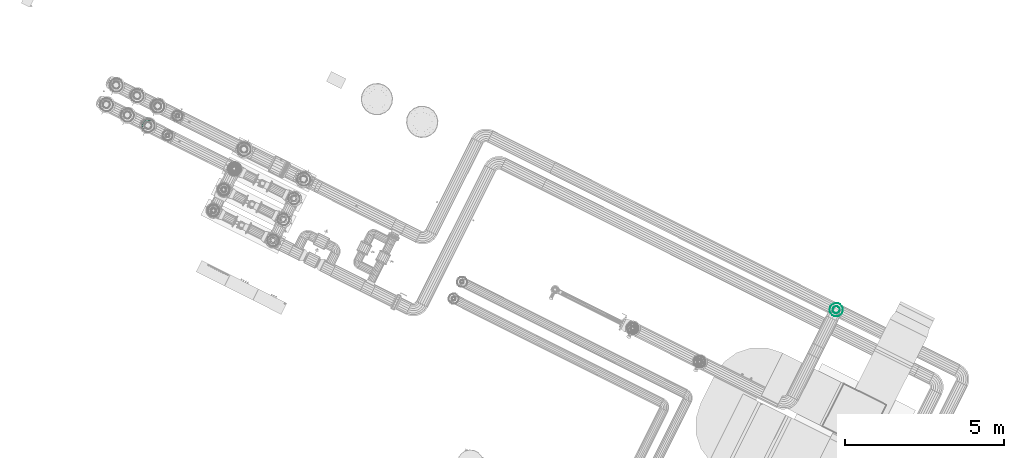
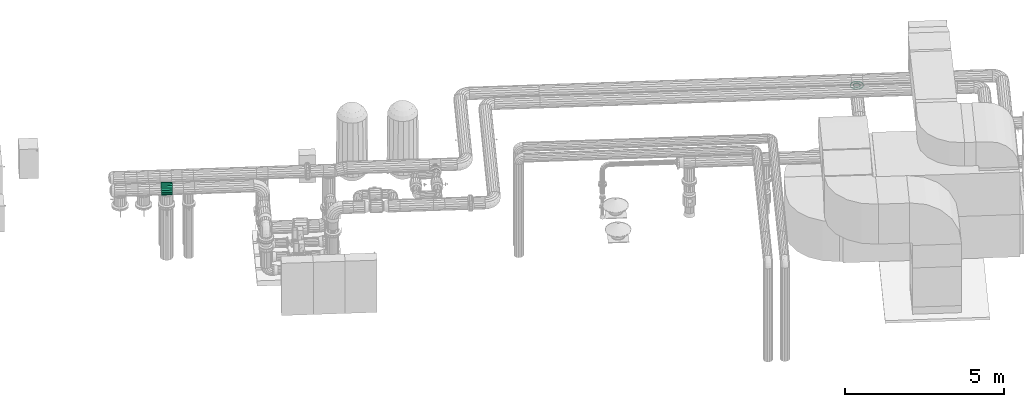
# One storey, part 84 of 152: 1 flow fitting, 1 flow segment.
"""IFC2X3 building model written with IfcOpenShell, lengths in metres."""

from ifc_helpers import new_model, si_unit, derived_unit, direction, frame, origin, place, context, subcontext, project, spatial, face_set, surface_model, source, transform, mapped, material, type_object, type_shapes, element, save


model = new_model("IFC2X3")

# Units and contexts
model_context = context("Model", 3, precision=5.2338327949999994e-05, world=origin(), true_north=direction((0.0, 1.0)))
body_context = subcontext(model_context, "Body", "Model", "MODEL_VIEW")
ifc_project = project(units=[si_unit("LENGTHUNIT", "METRE"), si_unit("AREAUNIT", "SQUARE_METRE"), si_unit("VOLUMEUNIT", "CUBIC_METRE"), si_unit("MASSUNIT", "GRAM", prefix="KILO"), si_unit("PLANEANGLEUNIT", "RADIAN"), derived_unit("THERMALTRANSMITTANCEUNIT", [(si_unit("MASSUNIT", "GRAM", prefix="KILO"), 1), (si_unit("THERMODYNAMICTEMPERATUREUNIT", "KELVIN"), -1), (si_unit("TIMEUNIT", "SECOND"), -3)])], contexts=[model_context])

# Site, building, storey
site_placement = place(None, frame((0.0, 0.0, 0.0), z_axis=(0.0, 0.0, 1.0), x_axis=(0.8939966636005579, -0.4480736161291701, 0.0)))
site = spatial("IfcSite", under=ifc_project, at=site_placement, Name="Default", CompositionType="ELEMENT")
building_placement = place(site_placement, origin())
building = spatial("IfcBuilding", under=site, at=building_placement, CompositionType="ELEMENT")
storey_placement = place(building_placement, frame((0.0, 0.0, 2.7499999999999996)))
storey = spatial("IfcBuildingStorey", under=building, at=storey_placement, Name="1. Obergeschoss", CompositionType="ELEMENT", Elevation=2.7499999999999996)

# Flow fitting
ifc_material_1 = material(Name="IfcSurfaceStyle #9317")
distribution_element_type_1 = type_object("IfcDistributionElementType", Name="Abzweigstück 225748:Abzweigstück 225748", material=ifc_material_1)
shared_shape_1 = source(origin(), body_context, "Body", "SurfaceModel", [
    surface_model("IfcFaceBasedSurfaceModel", [(6.765814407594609, 7.217658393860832, 5.553028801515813), (6.765814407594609, 7.224265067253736, 5.59049710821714), (6.4098144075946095, 7.224265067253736, 5.59049710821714), (6.4098144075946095, 7.217658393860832, 5.553028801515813), (6.765814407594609, 7.243288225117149, 5.623446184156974), (6.4098144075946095, 7.243288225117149, 5.623446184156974), (6.765814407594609, 7.272433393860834, 5.6479018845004), (6.4098144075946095, 7.272433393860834, 5.6479018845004), (6.765814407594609, 7.308185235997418, 5.660914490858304), (6.4098144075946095, 7.308185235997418, 5.660914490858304), (6.765814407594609, 7.346231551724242, 5.660914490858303), (6.4098144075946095, 7.346231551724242, 5.660914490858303), (6.765814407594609, 7.381983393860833, 5.647901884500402), (6.4098144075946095, 7.381983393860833, 5.647901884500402), (6.765814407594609, 7.411128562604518, 5.623446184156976), (6.4098144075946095, 7.411128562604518, 5.623446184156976), (6.765814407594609, 7.430151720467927, 5.590497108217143), (6.4098144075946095, 7.430151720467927, 5.590497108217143), (6.765814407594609, 7.436758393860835, 5.553028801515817), (6.4098144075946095, 7.436758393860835, 5.553028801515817), (6.765814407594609, 7.4301517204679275, 5.51556049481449), (6.4098144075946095, 7.4301517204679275, 5.51556049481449), (6.765814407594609, 7.411128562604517, 5.482611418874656), (6.4098144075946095, 7.411128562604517, 5.482611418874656), (6.765814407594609, 7.381983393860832, 5.458155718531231), (6.4098144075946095, 7.381983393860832, 5.458155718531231), (6.765814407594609, 7.3462315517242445, 5.445143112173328), (6.4098144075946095, 7.3462315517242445, 5.445143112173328), (6.765814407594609, 7.308185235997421, 5.445143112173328), (6.4098144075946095, 7.308185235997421, 5.445143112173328), (6.765814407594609, 7.272433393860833, 5.45815571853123), (6.4098144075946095, 7.272433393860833, 5.45815571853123), (6.765814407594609, 7.243288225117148, 5.4826114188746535), (6.4098144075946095, 7.243288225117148, 5.4826114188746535), (6.765814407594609, 7.224265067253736, 5.515560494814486), (6.4098144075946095, 7.224265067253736, 5.515560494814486), (6.765814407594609, 7.117658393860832, 5.553028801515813), (6.765814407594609, 7.130295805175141, 5.624699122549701), (6.4098144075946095, 7.130295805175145, 5.624699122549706), (6.4098144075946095, 7.117658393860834, 5.553028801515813), (6.765814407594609, 7.166683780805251, 5.687724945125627), (6.4098144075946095, 7.166683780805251, 5.687724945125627), (6.765814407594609, 7.222433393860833, 5.734504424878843), (6.4098144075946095, 7.222433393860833, 5.734504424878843), (6.765814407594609, 7.290820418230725, 5.759395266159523), (6.4098144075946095, 7.290820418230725, 5.759395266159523), (6.765814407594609, 7.363596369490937, 5.759395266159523), (6.4098144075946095, 7.363596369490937, 5.759395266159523), (6.765814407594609, 7.43198339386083, 5.734504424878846), (6.4098144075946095, 7.43198339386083, 5.734504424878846), (6.765814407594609, 7.487733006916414, 5.687724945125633), (6.4098144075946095, 7.487733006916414, 5.687724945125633), (6.765814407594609, 7.52412098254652, 5.6246991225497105), (6.4098144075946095, 7.52412098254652, 5.6246991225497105), (6.765814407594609, 7.536758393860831, 5.553028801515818), (6.4098144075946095, 7.536758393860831, 5.553028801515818), (6.765814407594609, 7.5241209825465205, 5.481358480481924), (6.4098144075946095, 7.5241209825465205, 5.481358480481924), (6.765814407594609, 7.487733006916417, 5.418332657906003), (6.4098144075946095, 7.487733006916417, 5.418332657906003), (6.765814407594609, 7.431983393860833, 5.371553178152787), (6.4098144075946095, 7.431983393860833, 5.371553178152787), (6.765814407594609, 7.36359636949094, 5.3466623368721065), (6.4098144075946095, 7.36359636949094, 5.3466623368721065), (6.765814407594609, 7.29082041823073, 5.3466623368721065), (6.4098144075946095, 7.29082041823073, 5.3466623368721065), (6.765814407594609, 7.222433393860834, 5.3715531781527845), (6.4098144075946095, 7.222433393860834, 5.3715531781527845), (6.765814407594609, 7.166683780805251, 5.418332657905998), (6.4098144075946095, 7.166683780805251, 5.418332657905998), (6.765814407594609, 7.130295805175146, 5.481358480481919), (6.4098144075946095, 7.130295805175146, 5.481358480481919), (6.478264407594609, 7.327208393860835, 5.443478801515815), (6.484871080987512, 7.3646767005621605, 5.45008547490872), (6.484871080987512, 7.3646767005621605, 5.375028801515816), (6.478264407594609, 7.327208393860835, 5.375028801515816), (6.5038942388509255, 7.397625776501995, 5.469108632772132), (6.5038942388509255, 7.397625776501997, 5.375028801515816), (6.533039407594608, 7.422081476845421, 5.498253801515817), (6.533039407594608, 7.422081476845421, 5.375028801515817), (6.568791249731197, 7.43509408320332, 5.534005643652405), (6.568791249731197, 7.435094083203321, 5.375028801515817), (6.6068375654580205, 7.435094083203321, 5.534005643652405), (6.6068375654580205, 7.435094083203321, 5.375028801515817), (6.64258940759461, 7.422081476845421, 5.498253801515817), (6.64258940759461, 7.422081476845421, 5.375028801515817), (6.671734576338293, 7.397625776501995, 5.469108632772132), (6.671734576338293, 7.397625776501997, 5.375028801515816), (6.690757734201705, 7.3646767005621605, 5.45008547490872), (6.690757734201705, 7.3646767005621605, 5.375028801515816), (6.69736440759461, 7.327208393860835, 5.443478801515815), (6.697364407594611, 7.327208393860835, 5.375028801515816), (6.690757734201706, 7.289740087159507, 5.450085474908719), (6.690757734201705, 7.289740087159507, 5.375028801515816), (6.671734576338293, 7.256791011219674, 5.46910863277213), (6.671734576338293, 7.256791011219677, 5.375028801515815), (6.64258940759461, 7.232335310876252, 5.498253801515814), (6.64258940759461, 7.232335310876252, 5.375028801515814), (6.606837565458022, 7.219322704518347, 5.534005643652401), (6.606837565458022, 7.219322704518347, 5.375028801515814), (6.568791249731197, 7.219322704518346, 5.534005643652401), (6.568791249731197, 7.219322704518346, 5.375028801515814), (6.533039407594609, 7.232335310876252, 5.498253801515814), (6.533039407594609, 7.232335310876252, 5.375028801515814), (6.503894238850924, 7.256791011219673, 5.46910863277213), (6.503894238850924, 7.2567910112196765, 5.375028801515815), (6.4848710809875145, 7.289740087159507, 5.450085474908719), (6.4848710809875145, 7.289740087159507, 5.375028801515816)], [face_set([[[0, 1, 2, 3]], [[1, 4, 5, 2]], [[4, 6, 7, 5]], [[6, 8, 9, 7]], [[8, 10, 11, 9]], [[10, 12, 13, 11]], [[12, 14, 15, 13]], [[14, 16, 17, 15]], [[16, 18, 19, 17]], [[18, 20, 21, 19]], [[20, 22, 23, 21]], [[22, 24, 25, 23]], [[24, 26, 27, 25]], [[26, 28, 29, 27]], [[28, 30, 31, 29]], [[30, 32, 33, 31]], [[32, 34, 35, 33]], [[34, 0, 3, 35]], [[36, 37, 38, 39]], [[37, 40, 41, 38]], [[40, 42, 43, 41]], [[42, 44, 45, 43]], [[44, 46, 47, 45]], [[46, 48, 49, 47]], [[48, 50, 51, 49]], [[50, 52, 53, 51]], [[52, 54, 55, 53]], [[54, 56, 57, 55]], [[56, 58, 59, 57]], [[58, 60, 61, 59]], [[60, 62, 63, 61]], [[62, 64, 65, 63]], [[64, 66, 67, 65]], [[66, 68, 69, 67]], [[68, 70, 71, 69]], [[70, 36, 39, 71]], [[72, 73, 74, 75]], [[73, 76, 77, 74]], [[76, 78, 79, 77]], [[78, 80, 81, 79]], [[80, 82, 83, 81]], [[82, 84, 85, 83]], [[84, 86, 87, 85]], [[86, 88, 89, 87]], [[88, 90, 91, 89]], [[90, 92, 93, 91]], [[92, 94, 95, 93]], [[94, 96, 97, 95]], [[96, 98, 99, 97]], [[98, 100, 101, 99]], [[100, 102, 103, 101]], [[102, 104, 105, 103]], [[104, 106, 107, 105]], [[106, 72, 75, 107]]])]),
])
type_shapes(distribution_element_type_1, [shared_shape_1])
flow_fitting_placement = place(storey_placement, frame((0.0, 0.0, -2.7499999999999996)))
element("IfcFlowFitting", 1, at=flow_fitting_placement, inside=storey, type_object=distribution_element_type_1, material=ifc_material_1, Name="Abzweigstück", ObjectType="Abzweigstück", context=body_context, shape_type="MappedRepresentation", body=[
    mapped(shared_shape_1, transform((0.0, 0.0, 0.0), scale=1.0)),
])

# Flow segment
ifc_material_2 = material(Name="IfcSurfaceStyle #1741")
distribution_element_type_2 = type_object("IfcDistributionElementType", Name="Stahlrohr nach DIN 2448 349870:Stahlrohr nach DIN 2448 349870", material=ifc_material_2)
shared_shape_2 = source(origin(), body_context, "Body", "SurfaceModel", [
    surface_model("IfcFaceBasedSurfaceModel", [(28.436374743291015, 11.850036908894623, 5.427997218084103), (28.44298141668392, 11.812568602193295, 5.427997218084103), (28.44298141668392, 11.812568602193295, 5.457640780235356), (28.436374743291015, 11.850036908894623, 5.457640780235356), (28.46200457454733, 11.77961952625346, 5.427997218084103), (28.46200457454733, 11.779619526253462, 5.457640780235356), (28.491149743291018, 11.755163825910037, 5.427997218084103), (28.49114974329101, 11.755163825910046, 5.457640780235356), (28.5269015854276, 11.742151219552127, 5.427997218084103), (28.526901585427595, 11.74215121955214, 5.457640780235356), (28.564947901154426, 11.742151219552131, 5.427997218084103), (28.564947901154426, 11.742151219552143, 5.457640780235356), (28.600699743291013, 11.755163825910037, 5.427997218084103), (28.600699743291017, 11.755163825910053, 5.457640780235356), (28.629844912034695, 11.77961952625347, 5.427997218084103), (28.6298449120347, 11.779619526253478, 5.457640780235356), (28.648868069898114, 11.812568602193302, 5.427997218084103), (28.64886806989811, 11.812568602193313, 5.457640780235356), (28.655474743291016, 11.850036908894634, 5.427997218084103), (28.655474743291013, 11.850036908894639, 5.457640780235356), (28.648868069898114, 11.88750521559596, 5.427997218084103), (28.648868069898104, 11.887505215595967, 5.457640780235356), (28.629844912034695, 11.920454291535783, 5.427997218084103), (28.629844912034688, 11.920454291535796, 5.457640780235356), (28.600699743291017, 11.94490999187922, 5.427997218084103), (28.600699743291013, 11.944909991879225, 5.457640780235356), (28.564947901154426, 11.957922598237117, 5.427997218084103), (28.56494790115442, 11.957922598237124, 5.457640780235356), (28.5269015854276, 11.957922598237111, 5.427997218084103), (28.52690158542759, 11.957922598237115, 5.457640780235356), (28.491149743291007, 11.944909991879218, 5.427997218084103), (28.491149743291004, 11.944909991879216, 5.457640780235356), (28.46200457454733, 11.920454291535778, 5.427997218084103), (28.462004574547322, 11.920454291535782, 5.457640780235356), (28.44298141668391, 11.887505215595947, 5.427997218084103), (28.44298141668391, 11.88750521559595, 5.457640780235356), (28.33637474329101, 11.850036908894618, 5.427997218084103), (28.34901215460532, 11.77836658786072, 5.427997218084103), (28.34901215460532, 11.77836658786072, 5.457640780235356), (28.336374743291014, 11.85003690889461, 5.457640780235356), (28.385400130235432, 11.7153407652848, 5.427997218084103), (28.385400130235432, 11.715340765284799, 5.457640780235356), (28.44114974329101, 11.668561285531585, 5.427997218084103), (28.44114974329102, 11.668561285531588, 5.457640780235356), (28.509536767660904, 11.643670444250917, 5.427997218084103), (28.50953676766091, 11.643670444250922, 5.457640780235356), (28.58231271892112, 11.643670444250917, 5.427997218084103), (28.582312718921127, 11.643670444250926, 5.457640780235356), (28.65069974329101, 11.668561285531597, 5.427997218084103), (28.650699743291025, 11.668561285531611, 5.457640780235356), (28.706449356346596, 11.715340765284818, 5.427997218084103), (28.706449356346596, 11.71534076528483, 5.457640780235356), (28.742837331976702, 11.778366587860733, 5.427997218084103), (28.742837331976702, 11.778366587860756, 5.457640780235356), (28.755474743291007, 11.85003690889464, 5.427997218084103), (28.755474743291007, 11.85003690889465, 5.457640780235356), (28.7428373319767, 11.921707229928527, 5.427997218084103), (28.742837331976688, 11.921707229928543, 5.457640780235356), (28.706449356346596, 11.984733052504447, 5.427997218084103), (28.70644935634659, 11.984733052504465, 5.457640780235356), (28.65069974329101, 12.031512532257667, 5.427997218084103), (28.650699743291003, 12.031512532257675, 5.457640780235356), (28.582312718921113, 12.056403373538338, 5.427997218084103), (28.58231271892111, 12.056403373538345, 5.457640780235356), (28.509536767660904, 12.056403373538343, 5.427997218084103), (28.509536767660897, 12.056403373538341, 5.457640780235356), (28.44114974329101, 12.031512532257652, 5.427997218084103), (28.441149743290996, 12.031512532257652, 5.457640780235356), (28.385400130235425, 11.984733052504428, 5.427997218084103), (28.38540013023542, 11.984733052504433, 5.457640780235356), (28.349012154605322, 11.921707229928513, 5.427997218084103), (28.34901215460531, 11.921707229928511, 5.457640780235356)], [face_set([[[0, 1, 2, 3]], [[1, 4, 5, 2]], [[4, 6, 7, 5]], [[6, 8, 9, 7]], [[8, 10, 11, 9]], [[10, 12, 13, 11]], [[12, 14, 15, 13]], [[14, 16, 17, 15]], [[16, 18, 19, 17]], [[18, 20, 21, 19]], [[20, 22, 23, 21]], [[22, 24, 25, 23]], [[24, 26, 27, 25]], [[26, 28, 29, 27]], [[28, 30, 31, 29]], [[30, 32, 33, 31]], [[32, 34, 35, 33]], [[34, 0, 3, 35]], [[36, 37, 38, 39]], [[37, 40, 41, 38]], [[40, 42, 43, 41]], [[42, 44, 45, 43]], [[44, 46, 47, 45]], [[46, 48, 49, 47]], [[48, 50, 51, 49]], [[50, 52, 53, 51]], [[52, 54, 55, 53]], [[54, 56, 57, 55]], [[56, 58, 59, 57]], [[58, 60, 61, 59]], [[60, 62, 63, 61]], [[62, 64, 65, 63]], [[64, 66, 67, 65]], [[66, 68, 69, 67]], [[68, 70, 71, 69]], [[70, 36, 39, 71]]])]),
])
type_shapes(distribution_element_type_2, [shared_shape_2])
flow_segment_placement = place(storey_placement, frame((0.0, 0.0, -2.7499999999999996)))
element("IfcFlowSegment", 2, at=flow_segment_placement, inside=storey, type_object=distribution_element_type_2, material=ifc_material_2, Name="Stahlrohr nach DIN 2448", ObjectType="Stahlrohr nach DIN 2448", context=body_context, shape_type="MappedRepresentation", body=[
    mapped(shared_shape_2, transform((0.0, 0.0, 0.0), scale=1.0)),
])

save(model, "model.ifc")
